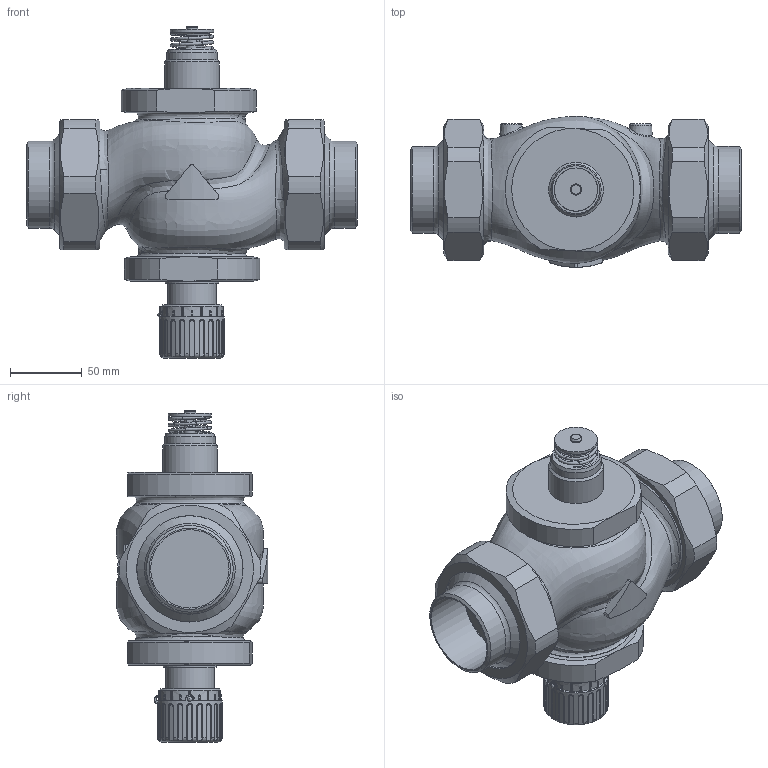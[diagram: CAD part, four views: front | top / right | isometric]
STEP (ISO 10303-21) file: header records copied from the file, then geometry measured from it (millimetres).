
FILE_DESCRIPTION(/* description */ (''),/* implementation_level */ '2;1');
FILE_NAME(/* name */ 'rv122p_dn50_W.stp',/* time_stamp */ '2012-11-05T15:21:37+01:00',/* author */ ('JENIK'),/* organization */ ('LDM'),/* preprocessor_version */ 'ST-DEVELOPER v11',/* originating_system */ 'SIEMENS PLM Software NX 7.0',/* authorisation */ '');
FILE_SCHEMA (('CONFIG_CONTROL_DESIGN'));
Length unit declared in the file: millimetre
Products named in the file (1): jeniA85B0dm1
Bounding box: 230 x 104.99 x 230.8 mm (x, y, z)
Volume: 206181.3 mm3; surface area: 178084.2 mm2
Topology: 6 solids, 7 shells, 561 faces, 1386 edges, 855 vertices
Faces by surface type: cylinder 208, plane 147, bspline 96, torus 72, cone 37, sphere 1
Full cylindrical faces by diameter (mm): 2 x1, 2.5 x1, 8 x2, 24.5 x1, 30 x1, 33.8 x1, 35 x1, 37 x1, 38 x1, 43 x1, 54.5 x2, 60 x2, 60.3 x2, 73.8 x2, 74 x2, 77 x2, 77.8 x2, 78.576 x2, 81.534 x2
Entity records: 30513 total; most frequent: CARTESIAN_POINT 18560, ORIENTED_EDGE 2516, DIRECTION 2290, EDGE_CURVE 1258, AXIS2_PLACEMENT_3D 961, VERTEX_POINT 812, EDGE_LOOP 680, ADVANCED_FACE 561
